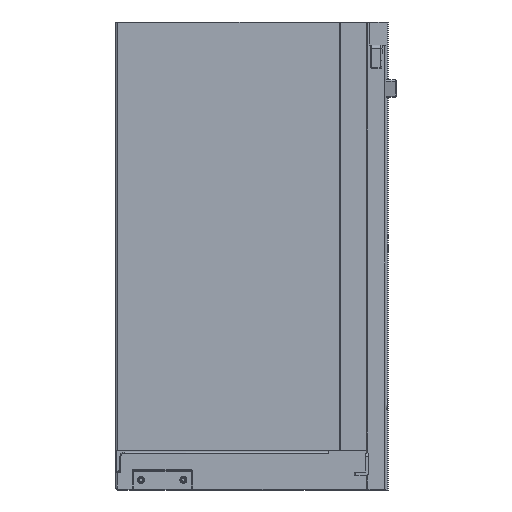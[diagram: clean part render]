
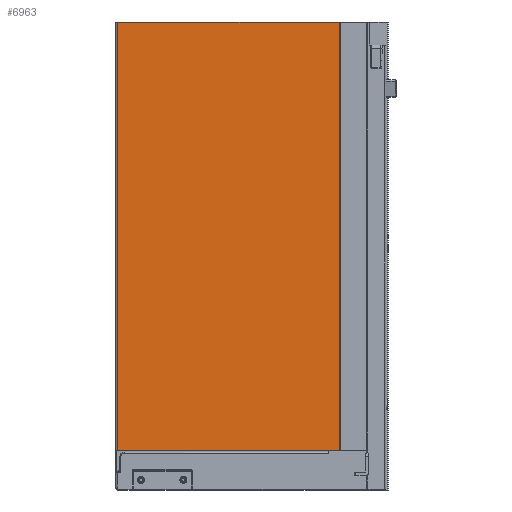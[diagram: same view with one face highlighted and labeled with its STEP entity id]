
A CAD part, left-side view. The second image highlights one B-rep face of the part: STEP entity #6963.
In plain terms, the highlighted planar face has unit normal (-1, 0, 0).
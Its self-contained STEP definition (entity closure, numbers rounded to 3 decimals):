
#558 = CARTESIAN_POINT ( 'NONE',  ( 5.7, 0., -273.5 ) ) ;
#726 = EDGE_LOOP ( 'NONE', ( #4686, #1276, #10833, #11133 ) ) ;
#1276 = ORIENTED_EDGE ( 'NONE', *, *, #9541, .F. ) ;
#1886 = DIRECTION ( 'NONE',  ( 0., 1., 0. ) ) ;
#1931 = CARTESIAN_POINT ( 'NONE',  ( 5.7, 141.8, 0. ) ) ;
#1980 = CARTESIAN_POINT ( 'NONE',  ( 5.7, 0., -273.5 ) ) ;
#2333 = DIRECTION ( 'NONE',  ( 0., 0., 1. ) ) ;
#2354 = CARTESIAN_POINT ( 'NONE',  ( 5.7, 141.8, -362.455 ) ) ;
#2502 = EDGE_CURVE ( 'NONE', #5442, #6261, #9629, .T. ) ;
#2636 = DIRECTION ( 'NONE',  ( 0., 0., 1. ) ) ;
#2718 = CARTESIAN_POINT ( 'NONE',  ( 5.7, 0., -362.455 ) ) ;
#2774 = PLANE ( 'NONE',  #2965 ) ;
#2965 = AXIS2_PLACEMENT_3D ( 'NONE', #2718, #3462, #2636 ) ;
#3315 = VERTEX_POINT ( 'NONE', #558 ) ;
#3462 = DIRECTION ( 'NONE',  ( -1., 0., 0. ) ) ;
#3765 = CARTESIAN_POINT ( 'NONE',  ( 5.7, 141.8, -273.5 ) ) ;
#3924 = VECTOR ( 'NONE', #1886, 1000. ) ;
#3944 = VECTOR ( 'NONE', #2333, 1000. ) ;
#3976 = LINE ( 'NONE', #1980, #3924 ) ;
#4055 = LINE ( 'NONE', #2354, #3944 ) ;
#4686 = ORIENTED_EDGE ( 'NONE', *, *, #9540, .F. ) ;
#4695 = LINE ( 'NONE', #10591, #4728 ) ;
#4728 = VECTOR ( 'NONE', #10647, 1000. ) ;
#5442 = VERTEX_POINT ( 'NONE', #11106 ) ;
#5873 = CARTESIAN_POINT ( 'NONE',  ( 5.7, 0., 0. ) ) ;
#5875 = DIRECTION ( 'NONE',  ( 0., 1., 0. ) ) ;
#6041 = FACE_OUTER_BOUND ( 'NONE', #726, .T. ) ;
#6261 = VERTEX_POINT ( 'NONE', #1931 ) ;
#6911 = VERTEX_POINT ( 'NONE', #3765 ) ;
#6963 = ADVANCED_FACE ( 'NONE', ( #6041 ), #2774, .T. ) ;
#9133 = EDGE_CURVE ( 'NONE', #3315, #5442, #4695, .T. ) ;
#9531 = VECTOR ( 'NONE', #5875, 1000. ) ;
#9540 = EDGE_CURVE ( 'NONE', #6911, #6261, #4055, .T. ) ;
#9541 = EDGE_CURVE ( 'NONE', #3315, #6911, #3976, .T. ) ;
#9629 = LINE ( 'NONE', #5873, #9531 ) ;
#10591 = CARTESIAN_POINT ( 'NONE',  ( 5.7, 0., -362.455 ) ) ;
#10647 = DIRECTION ( 'NONE',  ( 0., 0., 1. ) ) ;
#10833 = ORIENTED_EDGE ( 'NONE', *, *, #9133, .T. ) ;
#11106 = CARTESIAN_POINT ( 'NONE',  ( 5.7, 0., 0. ) ) ;
#11133 = ORIENTED_EDGE ( 'NONE', *, *, #2502, .T. ) ;
